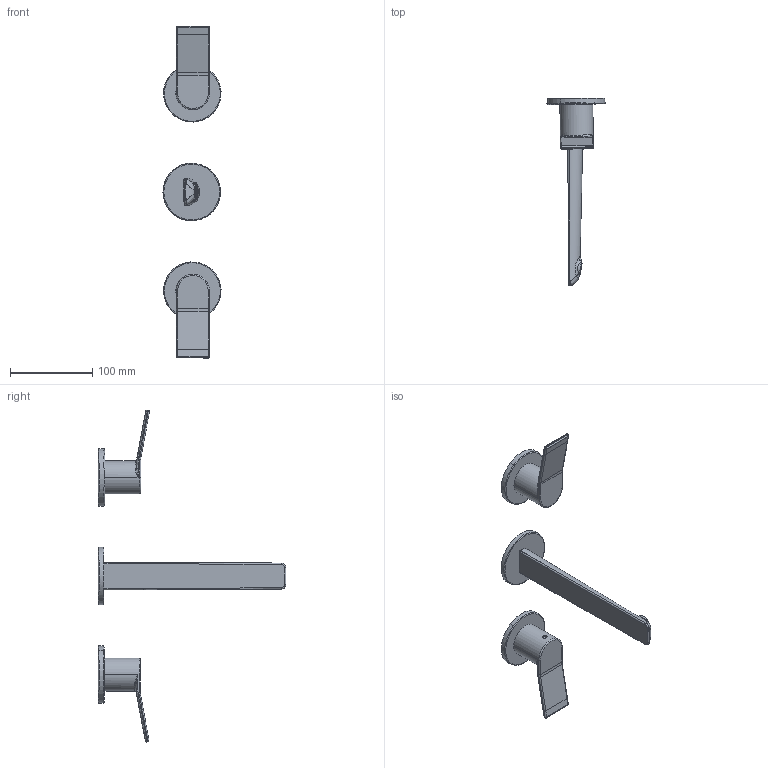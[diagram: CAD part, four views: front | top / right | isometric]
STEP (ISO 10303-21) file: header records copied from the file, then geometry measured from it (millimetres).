
FILE_DESCRIPTION (( 'STEP AP203' ), '1' );
FILE_NAME ('853252 X ARCHITETTI.STEP', '2026-05-29T13:02:16', ( '' ), ( '' ), 'SwSTEP 2.0', 'SolidWorks 2020', '' );
FILE_SCHEMA (( 'CONFIG_CONTROL_DESIGN' ));
Length unit declared in the file: millimetre
Products named in the file (1): 853252 X ARCHITETTI
Bounding box: 70.45 x 227.88 x 403.02 mm (x, y, z)
Volume: 292952.6 mm3; surface area: 84636.4 mm2
Topology: 3 solids, 9 shells, 1265 faces, 3012 edges, 1769 vertices
Faces by surface type: plane 633, cylinder 447, bspline 150, torus 16, cone 11, sphere 8
Entity records: 47894 total; most frequent: CARTESIAN_POINT 21564, ORIENTED_EDGE 6000, DIRECTION 4697, EDGE_CURVE 3000, VERTEX_POINT 1769, VECTOR 1711, LINE 1711, AXIS2_PLACEMENT_3D 1493
